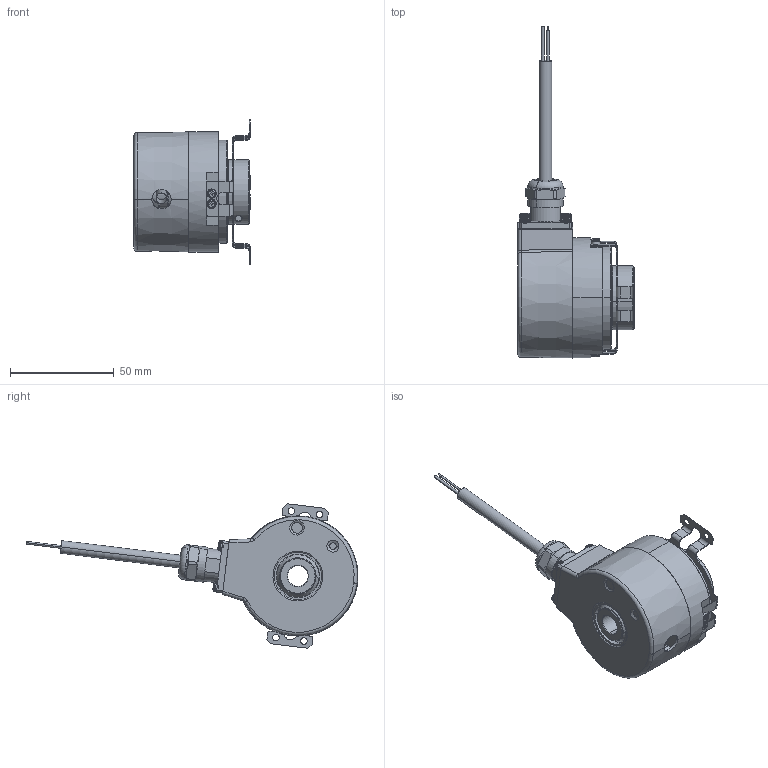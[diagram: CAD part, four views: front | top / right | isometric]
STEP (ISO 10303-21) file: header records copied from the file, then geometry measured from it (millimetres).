
FILE_DESCRIPTION (( 'STEP AP203' ), '1' );
FILE_NAME ('8.5834FSX.B3X2.XXXX.STEP', '2013-08-01T12:58:33', ( 'Admin' ), ( 'Fritz Kübler GmbH' ), 'SwSTEP 2.0', 'SolidWorks 2012', '' );
FILE_SCHEMA (( 'CONFIG_CONTROL_DESIGN' ));
Length unit declared in the file: millimetre
Products named in the file (1): 8.5834FSX.B3X2.XXXX
Bounding box: 56 x 160.1 x 69.69 mm (x, y, z)
Volume: 83854.9 mm3; surface area: 57027.4 mm2
Topology: 26 solids, 27 shells, 1293 faces, 3198 edges, 1956 vertices
Faces by surface type: plane 468, cylinder 410, cone 218, torus 110, sphere 52, bspline 35
Entity records: 41136 total; most frequent: CARTESIAN_POINT 10602, DIRECTION 6669, ORIENTED_EDGE 6168, EDGE_CURVE 3084, AXIS2_PLACEMENT_3D 2665, VERTEX_POINT 1920, EDGE_LOOP 1468, CIRCLE 1406
